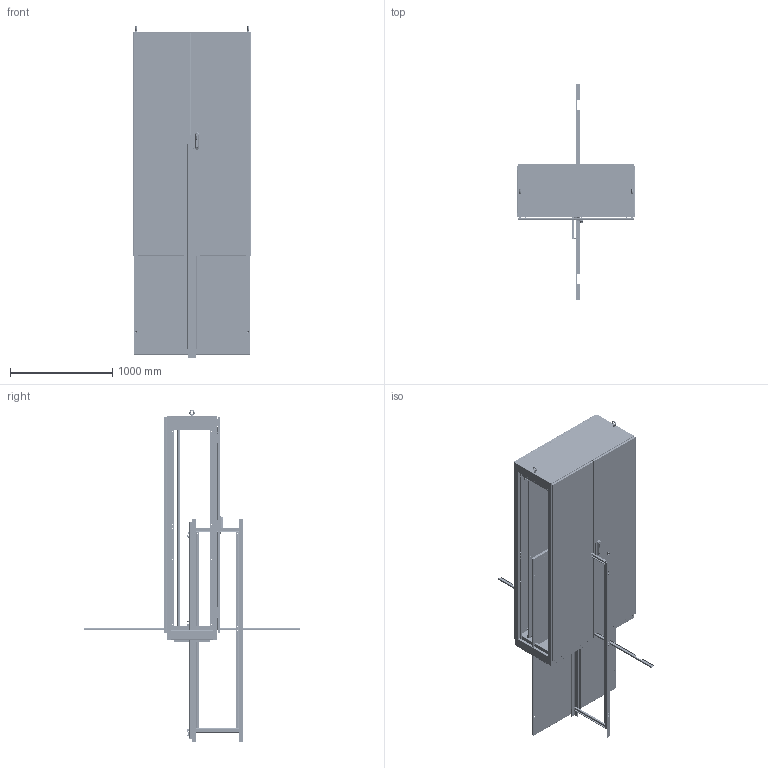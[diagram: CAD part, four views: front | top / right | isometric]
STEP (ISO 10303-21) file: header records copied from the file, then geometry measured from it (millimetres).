
FILE_DESCRIPTION( ( 'Unknown' ), '1' );
FILE_NAME( 'Q:/IME/WEB DRAWINGS/IMET20125.stp', 'Unknown', ( 'Unknown' ), ( 'Unknown' ), 'XStep 1.0', 'Unknown', ' ' );
FILE_SCHEMA( ( 'CONFIG_CONTROL_DESIGN' ) );
Length unit declared in the file: millimetre
Products named in the file (135): Assem1; Assem2; Assem3; Assem4; Assem5; Assem6; Assem7; Assem8; Assem9; Assem10; Assem11; Assem12; Assem13; Assem14; Assem15; Assem16; Assem17; Assem18; Assem19; Assem20; Assem21; Assem22; Assem23; 1; 2; 3; 4; 5; 6; 7; 8; 9; 10; 11; 12; 13; 14; 15; 16; 17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
Bounding box: 1148.54 x 2114.75 x 3250.4 mm (x, y, z)
Volume: 75452757.5 mm3; surface area: 78644866.4 mm2
Topology: 565 solids, 571 shells, 13023 faces, 33043 edges, 21621 vertices
Faces by surface type: plane 8195, cylinder 3859, torus 402, cone 360, bspline 207
Full cylindrical faces by diameter (mm): 2.464 x16, 3.175 x3, 3.454 x16, 3.607 x12, 4.166 x72, 4.216 x16, 4.318 x16, 4.826 x16, 4.851 x8, 4.928 x16, 5.08 x28, 5.105 x12, 5.156 x12, 5.537 x118, 5.893 x14, 5.994 x26, 6 x46, 6.35 x98, 6.411 x31, 7.137 x28, 7.366 x12, 7.442 x12, 7.62 x18, 7.938 x88, 8.001 x32, 8.026 x8, 9.525 x22, 9.804 x29, 10.999 x8, 11.113 x16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
Entity records: 95972 total; most frequent: CARTESIAN_POINT 21842, DIRECTION 14218, ORIENTED_EDGE 13410, EDGE_CURVE 6705, AXIS2_PLACEMENT_3D 4840, VERTEX_POINT 4570, LINE 4538, VECTOR 4538
